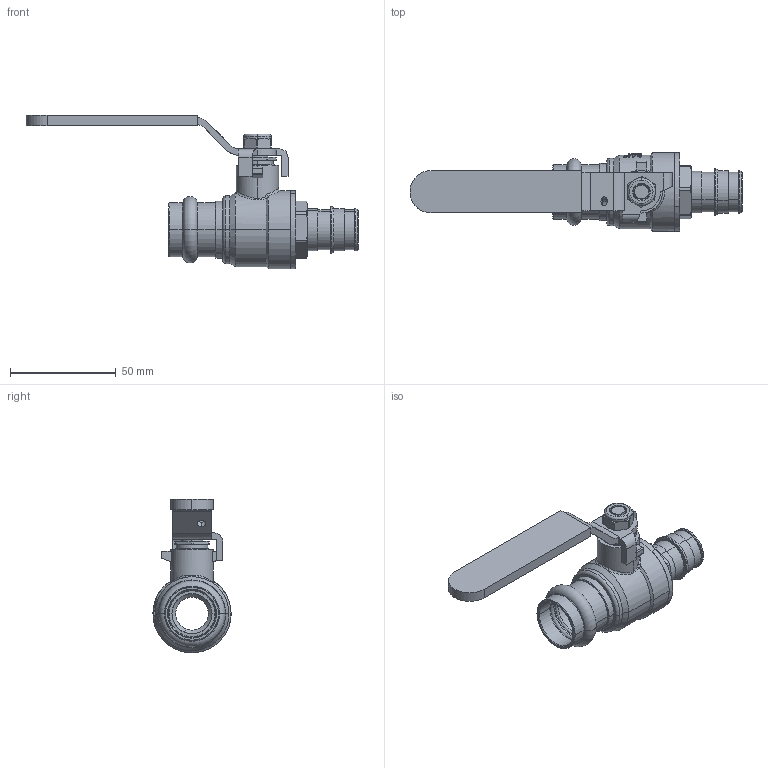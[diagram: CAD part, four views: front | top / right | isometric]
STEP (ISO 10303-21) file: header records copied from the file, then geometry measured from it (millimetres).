
FILE_DESCRIPTION(('Open CASCADE Model'),'2;1');
FILE_NAME('Open CASCADE Shape Model','2021-12-17T11:00:18',('Author'),( 'Open CASCADE'),'Open CASCADE STEP processor 7.3','Open CASCADE 7.3' ,'Unknown');
FILE_SCHEMA(('AUTOMOTIVE_DESIGN { 1 0 10303 214 1 1 1 1 }'));
Length unit declared in the file: millimetre
Products named in the file (13): Open CASCADE STEP translator 7.3 1; Open CASCADE STEP translator 7.3 1.1; Open CASCADE STEP translator 7.3 1.2; Open CASCADE STEP translator 7.3 1.3; Open CASCADE STEP translator 7.3 1.4; Open CASCADE STEP translator 7.3 1.5; Open CASCADE STEP translator 7.3 1.6; Open CASCADE STEP translator 7.3 1.7; Open CASCADE STEP translator 7.3 1.8; Open CASCADE STEP translator 7.3 1.9; Open CASCADE STEP translator 7.3 1.10; Open CASCADE STEP translator 7.3 1.11; Open CASCADE STEP translator 7.3 1.12
Assembly tree (12 placements, depth 2):
  Open CASCADE STEP translator 7.3 1
    Open CASCADE STEP translator 7.3 1.1
    Open CASCADE STEP translator 7.3 1.2
    Open CASCADE STEP translator 7.3 1.3
    Open CASCADE STEP translator 7.3 1.4
    Open CASCADE STEP translator 7.3 1.5
    Open CASCADE STEP translator 7.3 1.6
    Open CASCADE STEP translator 7.3 1.7
    Open CASCADE STEP translator 7.3 1.8
    Open CASCADE STEP translator 7.3 1.9
    Open CASCADE STEP translator 7.3 1.10
    Open CASCADE STEP translator 7.3 1.11
    Open CASCADE STEP translator 7.3 1.12
Bounding box: 157.1 x 37 x 72.71 mm (x, y, z)
Volume: 47900.6 mm3; surface area: 37973 mm2
Topology: 12 solids, 12 shells, 624 faces, 1611 edges, 1041 vertices
Faces by surface type: cylinder 197, plane 168, bspline 129, cone 76, torus 48, sphere 6
Entity records: 107021 total; most frequent: CARTESIAN_POINT 78150, DIRECTION 4330, ORIENTED_EDGE 3222, PCURVE 3222, DEFINITIONAL_REPRESENTATION 3222, LINE 2188, VECTOR 2188, B_SPLINE_CURVE_WITH_KNOTS 1729
